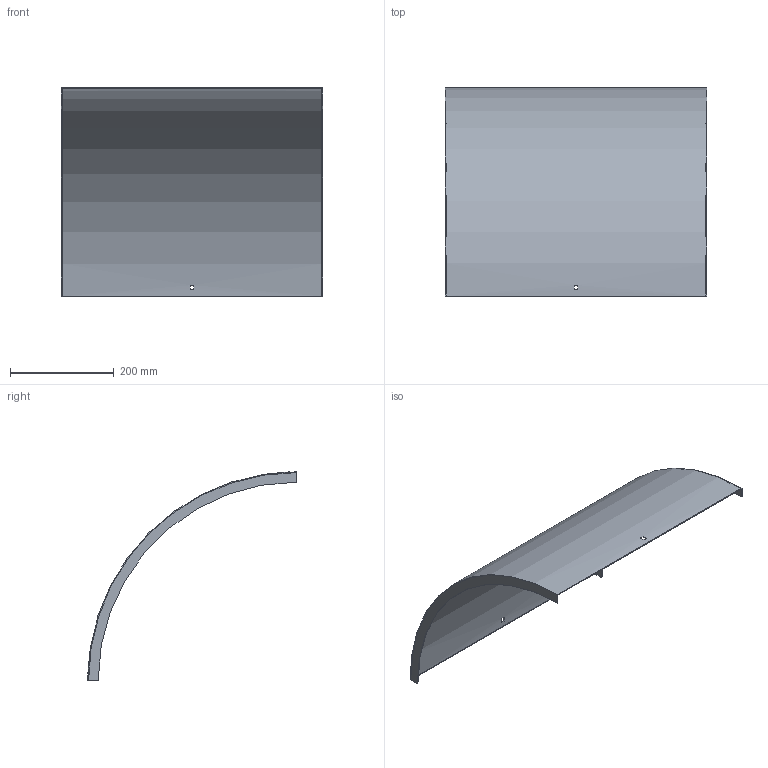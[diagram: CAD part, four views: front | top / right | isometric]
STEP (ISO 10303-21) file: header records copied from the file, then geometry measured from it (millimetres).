
FILE_DESCRIPTION (( 'STEP AP214' ), '1' );
FILE_NAME ('B2_33N3D500.step', '2025-02-21T10:47:09', ( '' ), ( '' ), 'SwSTEP 2.0', 'SolidWorks 2023', '' );
FILE_SCHEMA (( 'AUTOMOTIVE_DESIGN' ));
Length unit declared in the file: millimetre
Products named in the file (1): B2_33N3D500
Bounding box: 503 x 401.5 x 401.5 mm (x, y, z)
Volume: 508844.8 mm3; surface area: 681974.2 mm2
Topology: 1 solids, 1 shells, 18 faces, 48 edges, 32 vertices
Faces by surface type: plane 14, cylinder 4
Entity records: 599 total; most frequent: DIRECTION 102, CARTESIAN_POINT 99, ORIENTED_EDGE 96, EDGE_CURVE 48, AXIS2_PLACEMENT_3D 35, VECTOR 32, LINE 32, VERTEX_POINT 32
